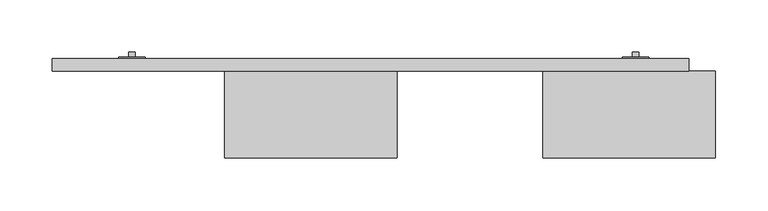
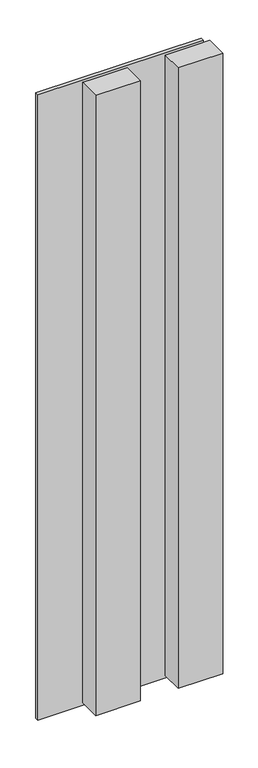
"""IFC4 building model written with IfcOpenShell, lengths in millimetres: proxy geometry, Arktura-SoundForm-Plank-RFA : Arktura-SoundForm-Plank-RFA."""

import ifcopenshell
import ifcopenshell.guid

model = None  # the IFC model being written
_history = None  # IfcOwnerHistory: only IFC2X3 demands one
_inside = {}  # id of a spatial element -> (the spatial element, [elements in it])
_under = {}  # id of a project, library or spatial element -> (it, [spatial elements below it])
_declared = {}  # id of a project -> (the project, [libraries it declares])
_typed = {}  # id of a type object -> (the type object, [elements of that type])
_made_of = {}  # id of a material, layer set ... -> (it, [elements and type objects made of it])


def new_model(schema):
    """Start an empty IFC model of exactly this schema.

    Asked for "IFC4X3", IfcOpenShell would pick the latest addendum, in which some entities
    have other attributes; the version numbers below select the first issue.
    IFC2X3 requires an IfcOwnerHistory on every rooted entity: one is made here for all.
    """
    global model, _history
    if schema == "IFC4X3":
        model = ifcopenshell.file(schema_version=(4, 3, 0, 0))
    else:
        model = ifcopenshell.file(schema=schema)
    _inside.clear()
    _under.clear()
    _declared.clear()
    _typed.clear()
    _made_of.clear()
    _history = None
    if model.schema == "IFC2X3":
        org = make("IfcOrganization", Name="unknown")
        user = make(
            "IfcPersonAndOrganization",
            ThePerson=make("IfcPerson", FamilyName="unknown"),
            TheOrganization=org,
        )
        app = make(
            "IfcApplication",
            ApplicationDeveloper=org,
            Version="unknown",
            ApplicationFullName="unknown",
            ApplicationIdentifier="unknown",
        )
        _history = make(
            "IfcOwnerHistory",
            OwningUser=user,
            OwningApplication=app,
            ChangeAction="ADDED",
            CreationDate=0,
        )
    return model


def make(cls, **values):
    """One entity of the class cls with the attributes given. An attribute that is None is left unset."""
    return model.create_entity(
        cls, **{name: value for name, value in values.items() if value is not None}
    )


def rooted(cls, **values):
    """An entity with a GlobalId (a new one), such as an element, a storey or a relation."""
    return make(cls, GlobalId=ifcopenshell.guid.new(), OwnerHistory=_history, **values)


def si_unit(unit_type, name, prefix=None):
    """IfcSIUnit, for example si_unit("LENGTHUNIT", "METRE", prefix="MILLI")."""
    return make("IfcSIUnit", UnitType=unit_type, Prefix=prefix, Name=name)


def assignment(units):
    """IfcUnitAssignment: the units of a project."""
    return None if units is None else make("IfcUnitAssignment", Units=units)


def point(xyz):
    """IfcCartesianPoint."""
    return None if xyz is None else make("IfcCartesianPoint", Coordinates=xyz)


def direction(xyz):
    """IfcDirection."""
    return None if xyz is None else make("IfcDirection", DirectionRatios=xyz)


def frame(location, z_axis=None, x_axis=None):
    """IfcAxis2Placement3D, a coordinate frame: its origin and axes. An axis left out is left unset."""
    return make(
        "IfcAxis2Placement3D",
        Location=point(location),
        Axis=direction(z_axis),
        RefDirection=direction(x_axis),
    )


def frame_2d(location, x_axis=None):
    """IfcAxis2Placement2D, a coordinate frame in the plane: its origin and x axis."""
    return make(
        "IfcAxis2Placement2D", Location=point(location), RefDirection=direction(x_axis)
    )


def origin():
    """The frame at (0, 0, 0) with its axes left unset."""
    return frame((0.0, 0.0, 0.0))


def origin_with_axes():
    """The frame at (0, 0, 0) with the z axis (0, 0, 1) and the x axis (1, 0, 0) written out."""
    return frame((0.0, 0.0, 0.0), z_axis=(0.0, 0.0, 1.0), x_axis=(1.0, 0.0, 0.0))


def place(relative_to, where):
    """IfcLocalPlacement: puts the frame where relative to a parent placement (None: the world)."""
    return make(
        "IfcLocalPlacement", PlacementRelTo=relative_to, RelativePlacement=where
    )


def context(
    kind, dimensions, precision=None, world=None, true_north=None, identifier=None
):
    """IfcGeometricRepresentationContext, for example the 3D "Model" context."""
    return make(
        "IfcGeometricRepresentationContext",
        ContextIdentifier=identifier,
        ContextType=kind,
        CoordinateSpaceDimension=dimensions,
        Precision=precision,
        WorldCoordinateSystem=world,
        TrueNorth=true_north,
    )


def project(units=None, contexts=None):
    """IfcProject with its units and contexts."""
    return rooted(
        "IfcProject",
        Name="project",
        RepresentationContexts=contexts,
        UnitsInContext=assignment(units),
    )


def spatial(cls, under=None, at=None, **own):
    """A site, building, storey or space (cls), placed at a placement, below another one or the project."""
    s = rooted(cls, ObjectPlacement=at, **own)
    if under is not None:
        _under.setdefault(under.id(), (under, []))[1].append(s)
    return s


def polyline(points):
    """IfcPolyline through the points."""
    return make("IfcPolyline", Points=[point(p) for p in points])


def circle_curve(where, radius):
    """IfcCircle in the frame where."""
    return make("IfcCircle", Position=where, Radius=radius)


def trimmed(basis, trim1, trim2, sense, master):
    """IfcTrimmedCurve: the piece of a basis curve between two trims."""
    return make(
        "IfcTrimmedCurve",
        BasisCurve=basis,
        Trim1=trim1,
        Trim2=trim2,
        SenseAgreement=sense,
        MasterRepresentation=master,
    )


def segment(curve, same_sense, transition):
    """IfcCompositeCurveSegment."""
    return make(
        "IfcCompositeCurveSegment",
        Transition=transition,
        SameSense=same_sense,
        ParentCurve=curve,
    )


def composite_curve(segments, self_intersect=None):
    """IfcCompositeCurve: segments joined end to end."""
    return make("IfcCompositeCurve", Segments=segments, SelfIntersect=self_intersect)


def outline(outer, holes=None, kind="AREA"):
    """IfcArbitraryClosedProfileDef: a profile drawn as a closed curve; with holes, ...WithVoids."""
    if holes is None:
        return make("IfcArbitraryClosedProfileDef", ProfileType=kind, OuterCurve=outer)
    return make(
        "IfcArbitraryProfileDefWithVoids",
        ProfileType=kind,
        OuterCurve=outer,
        InnerCurves=holes,
    )


def extrude(swept, where, along, depth):
    """IfcExtrudedAreaSolid: the profile swept, set in the frame where, extruded along a direction by depth."""
    return make(
        "IfcExtrudedAreaSolid",
        SweptArea=swept,
        Position=where,
        ExtrudedDirection=direction(along),
        Depth=depth,
    )


def shape(context_of_items, identifier, shape_type, items):
    """IfcShapeRepresentation: the items that make up one representation, for example the "Body"."""
    return make(
        "IfcShapeRepresentation",
        ContextOfItems=context_of_items,
        RepresentationIdentifier=identifier,
        RepresentationType=shape_type,
        Items=items,
    )


def source(mapping_origin, context_of_items, identifier, shape_type, items):
    """IfcRepresentationMap: a shape defined once, which mapped items show again and again."""
    return make(
        "IfcRepresentationMap",
        MappingOrigin=mapping_origin,
        MappedRepresentation=shape(context_of_items, identifier, shape_type, items),
    )


def transform(
    local_origin,
    x_axis=None,
    y_axis=None,
    z_axis=None,
    scale=None,
    scale2=None,
    scale3=None,
    uniform=True,
):
    """IfcCartesianTransformationOperator3D, or its non-uniform kind. x_axis, y_axis, z_axis: its Axis1, 2, 3."""
    if uniform:
        return make(
            "IfcCartesianTransformationOperator3D",
            Axis1=direction(x_axis),
            Axis2=direction(y_axis),
            LocalOrigin=point(local_origin),
            Scale=scale,
            Axis3=direction(z_axis),
        )
    return make(
        "IfcCartesianTransformationOperator3DnonUniform",
        Axis1=direction(x_axis),
        Axis2=direction(y_axis),
        LocalOrigin=point(local_origin),
        Scale=scale,
        Axis3=direction(z_axis),
        Scale2=scale2,
        Scale3=scale3,
    )


def mapped(mapping_source, mapping_target):
    """IfcMappedItem: shows the shape of a source again, moved by a transform."""
    return make(
        "IfcMappedItem", MappingSource=mapping_source, MappingTarget=mapping_target
    )


def made_of(thing, what):
    """Note that an element or type object is made of a material, layer set ...; save() writes the relation."""
    if what is not None:
        _made_of.setdefault(what.id(), (what, []))[1].append(thing)
    return thing


def element(
    cls,
    number,
    at=None,
    inside=None,
    cuts=None,
    type_object=None,
    material=None,
    context=None,
    identifier="Body",
    shape_type=None,
    held_by="IfcProductDefinitionShape",
    body=None,
    shapes=None,
    **own,
):
    """One element of the class cls, such as IfcWall. Its Tag is "e" and its number.

    at: its placement. inside: the storey or other place that contains it. cuts: it is an
    opening in that element (IfcRelVoidsElement). A single representation is given by context,
    identifier, shape_type and body (its items); several are given by shapes. held_by: the class
    of the entity that holds the representations. save() writes the other relations.
    """
    e = rooted(cls, Tag="e%d" % number, ObjectPlacement=at, **own)
    if body is not None:
        shapes = [shape(context, identifier, shape_type, body)]
    if shapes is not None:
        e.Representation = make(held_by, Representations=shapes)
    if inside is not None:
        _inside.setdefault(inside.id(), (inside, []))[1].append(e)
    if cuts is not None:
        rooted(
            "IfcRelVoidsElement", RelatingBuildingElement=cuts, RelatedOpeningElement=e
        )
    if type_object is not None:
        _typed.setdefault(type_object.id(), (type_object, []))[1].append(e)
    return made_of(e, material)


def aggregate(whole, parts):
    """IfcRelAggregates: a whole, such as a stair, and the parts it consists of."""
    return rooted("IfcRelAggregates", RelatingObject=whole, RelatedObjects=parts)


def save(model, path):
    """Write the relations noted so far, then the file.

    IfcRelAggregates (storeys below a building ...), IfcRelContainedInSpatialStructure (elements
    in a storey), IfcRelDefinesByType, IfcRelAssociatesMaterial and IfcRelDeclares: one each for
    every whole, place, type object, material and project.
    """
    for whole, parts in _under.values():
        aggregate(whole, parts)
    for where, things in _inside.values():
        rooted(
            "IfcRelContainedInSpatialStructure",
            RelatedElements=things,
            RelatingStructure=where,
        )
    for kind, things in _typed.values():
        rooted("IfcRelDefinesByType", RelatedObjects=things, RelatingType=kind)
    for what, things in _made_of.values():
        rooted("IfcRelAssociatesMaterial", RelatedObjects=things, RelatingMaterial=what)
    for by, libraries in _declared.values():
        rooted("IfcRelDeclares", RelatingContext=by, RelatedDefinitions=libraries)
    model.write(path)


def generic_models_fa2bc863(model_context):
    return source(origin(), model_context, "Body", "SweptSolid", [
        extrude(outline(polyline([(76.2, -31.75), (50.8, -31.75), (50.8, -30.3215536), (76.2, -30.3215536), (76.2, -31.75)])), frame((0.0, 0.0, 1206.5), z_axis=(0.0, 0.0, 1.0), x_axis=(1.0, 0.0, 0.0)), (0.0, 0.0, 1.0), 25.4),
        extrude(outline(composite_curve([segment(trimmed(circle_curve(frame_2d((1219.2, 63.5)), 3.175), [point((1219.2, 60.325))], [point((1219.2, 66.675))], False, "CARTESIAN"), True, "CONTINUOUS"), segment(trimmed(circle_curve(frame_2d((1219.2, 63.5)), 3.175), [point((1219.2, 66.675))], [point((1219.2, 60.325))], False, "CARTESIAN"), True, "CONTINUOUS")], self_intersect=False)), frame((0.0, -30.3215536, 0.0), z_axis=(0.0, 1.0, 0.0), x_axis=(0.0, 0.0, 1.0)), (0.0, 0.0, 1.0), 4.9215536),
        extrude(outline(polyline([(558.8, -31.75), (533.4, -31.75), (533.4, -30.3215536), (558.8, -30.3215536), (558.8, -31.75)])), frame((0.0, 0.0, 1206.5), z_axis=(0.0, 0.0, 1.0), x_axis=(1.0, 0.0, 0.0)), (0.0, 0.0, 1.0), 25.4),
        extrude(outline(composite_curve([segment(trimmed(circle_curve(frame_2d((1219.2, 546.1)), 3.175), [point((1219.2, 542.925))], [point((1219.2, 549.275))], False, "CARTESIAN"), True, "CONTINUOUS"), segment(trimmed(circle_curve(frame_2d((1219.2, 546.1)), 3.175), [point((1219.2, 549.275))], [point((1219.2, 542.925))], False, "CARTESIAN"), True, "CONTINUOUS")], self_intersect=False)), frame((0.0, -30.3215536, 0.0), z_axis=(0.0, 1.0, 0.0), x_axis=(0.0, 0.0, 1.0)), (0.0, 0.0, 1.0), 4.9215536),
        extrude(outline(polyline([(76.2, -31.75), (50.8, -31.75), (50.8, -30.3215536), (76.2, -30.3215536), (76.2, -31.75)])), frame((0.0, 0.0, 2352.675), z_axis=(0.0, 0.0, 1.0), x_axis=(1.0, 0.0, 0.0)), (0.0, 0.0, 1.0), 25.4),
        extrude(outline(composite_curve([segment(trimmed(circle_curve(frame_2d((2365.375, 63.5)), 3.175), [point((2365.375, 60.325))], [point((2365.375, 66.675))], False, "CARTESIAN"), True, "CONTINUOUS"), segment(trimmed(circle_curve(frame_2d((2365.375, 63.5)), 3.175), [point((2365.375, 66.675))], [point((2365.375, 60.325))], False, "CARTESIAN"), True, "CONTINUOUS")], self_intersect=False)), frame((0.0, -30.3215536, 0.0), z_axis=(0.0, 1.0, 0.0), x_axis=(0.0, 0.0, 1.0)), (0.0, 0.0, 1.0), 4.9215536),
        extrude(outline(polyline([(558.8, -31.75), (533.4, -31.75), (533.4, -30.3215536), (558.8, -30.3215536), (558.8, -31.75)])), frame((0.0, 0.0, 2352.675), z_axis=(0.0, 0.0, 1.0), x_axis=(1.0, 0.0, 0.0)), (0.0, 0.0, 1.0), 25.4),
        extrude(outline(composite_curve([segment(trimmed(circle_curve(frame_2d((2365.375, 546.1)), 3.175), [point((2365.375, 542.925))], [point((2365.375, 549.275))], False, "CARTESIAN"), True, "CONTINUOUS"), segment(trimmed(circle_curve(frame_2d((2365.375, 546.1)), 3.175), [point((2365.375, 549.275))], [point((2365.375, 542.925))], False, "CARTESIAN"), True, "CONTINUOUS")], self_intersect=False)), frame((0.0, -30.3215536, 0.0), z_axis=(0.0, 1.0, 0.0), x_axis=(0.0, 0.0, 1.0)), (0.0, 0.0, 1.0), 4.9215536),
        extrude(outline(polyline([(76.2, -31.75), (50.8, -31.75), (50.8, -30.3215536), (76.2, -30.3215536), (76.2, -31.75)])), frame((0.0, 0.0, 60.325), z_axis=(0.0, 0.0, 1.0), x_axis=(1.0, 0.0, 0.0)), (0.0, 0.0, 1.0), 25.4),
        extrude(outline(composite_curve([segment(trimmed(circle_curve(frame_2d((73.025, 63.5)), 3.175), [point((73.025, 60.325))], [point((73.025, 66.675))], False, "CARTESIAN"), True, "CONTINUOUS"), segment(trimmed(circle_curve(frame_2d((73.025, 63.5)), 3.175), [point((73.025, 66.675))], [point((73.025, 60.325))], False, "CARTESIAN"), True, "CONTINUOUS")], self_intersect=False)), frame((0.0, -30.3215536, 0.0), z_axis=(0.0, 1.0, 0.0), x_axis=(0.0, 0.0, 1.0)), (0.0, 0.0, 1.0), 4.9215536),
        extrude(outline(polyline([(558.8, -31.75), (533.4, -31.75), (533.4, -30.3215536), (558.8, -30.3215536), (558.8, -31.75)])), frame((0.0, 0.0, 60.325), z_axis=(0.0, 0.0, 1.0), x_axis=(1.0, 0.0, 0.0)), (0.0, 0.0, 1.0), 25.4),
        extrude(outline(composite_curve([segment(trimmed(circle_curve(frame_2d((73.025, 546.1)), 3.175), [point((73.025, 542.925))], [point((73.025, 549.275))], False, "CARTESIAN"), True, "CONTINUOUS"), segment(trimmed(circle_curve(frame_2d((73.025, 546.1)), 3.175), [point((73.025, 549.275))], [point((73.025, 542.925))], False, "CARTESIAN"), True, "CONTINUOUS")], self_intersect=False)), frame((0.0, -30.3215536, 0.0), z_axis=(0.0, 1.0, 0.0), x_axis=(0.0, 0.0, 1.0)), (0.0, 0.0, 1.0), 4.9215536),
        extrude(outline(polyline([(-12.7, -43.749976), (-12.7, -31.75), (596.9, -31.75), (596.9, -43.749976), (-12.7, -43.749976)])), origin_with_axes(), (0.0, 0.0, 1.0), 2438.4),
        extrude(outline(polyline([(622.3, -127.0), (457.2, -127.0), (457.2, -43.749976), (622.3, -43.749976), (622.3, -127.0)])), frame((0.0, 0.0, 9.525), z_axis=(0.0, 0.0, 1.0), x_axis=(1.0, 0.0, 0.0)), (0.0, 0.0, 1.0), 2419.35),
        extrude(outline(polyline([(152.4, -127.0), (152.4, -43.749976), (317.5, -43.749976), (317.5, -127.0), (152.4, -127.0)])), frame((0.0, 0.0, 9.525), z_axis=(0.0, 0.0, 1.0), x_axis=(1.0, 0.0, 0.0)), (0.0, 0.0, 1.0), 2419.35),
    ])


if __name__ == "__main__":
    model = new_model("IFC4")
    model_context = context("Model", 3, world=origin())
    ifc_project = project(units=[si_unit("LENGTHUNIT", "METRE", prefix="MILLI")], contexts=[model_context])
    site = spatial("IfcSite", under=ifc_project)
    building = spatial("IfcBuilding", under=site)
    placement = place(None, origin())
    generic_models_shape = generic_models_fa2bc863(model_context)
    element("IfcBuildingElementProxy", 1, Name="Arktura-SoundForm-Plank-RFA : Arktura-SoundForm-Plank-RFA", ObjectType="Arktura-SoundForm-Plank-RFA : Arktura-SoundForm-Plank-RFA", at=placement, inside=building, context=model_context, shape_type="MappedRepresentation", body=[
        mapped(generic_models_shape, transform((0.0, 0.0, 0.0), x_axis=(1.0, 0.0, 0.0), y_axis=(0.0, 1.0, 0.0), z_axis=(0.0, 0.0, 1.0))),
    ])
    save(model, "model.ifc")
